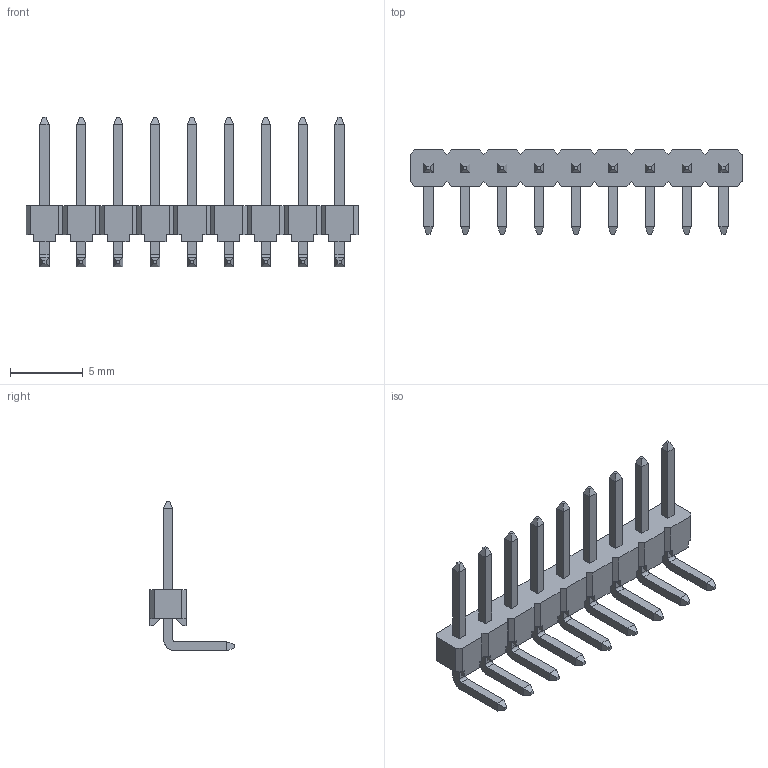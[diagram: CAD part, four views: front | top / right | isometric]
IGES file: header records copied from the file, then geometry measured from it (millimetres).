
Global section: file name: N:\GOLF_VI_2_54mm_UGII\961XXX-5X04-XX (TS-2182)\961109-5604-XX.igs; native system: NX V3.0; preprocessor: UGS NX IGES V4.0; date: 20070618.133044; units: millimetre
Bounding box: 22.86 x 5.8 x 10.32 mm (x, y, z)
Surface area: 516.3 mm2 (no closed solid volume)
Topology: 0 solids, 0 shells, 348 faces, 1843 edges, 1843 vertices
Faces by surface type: bspline 348
